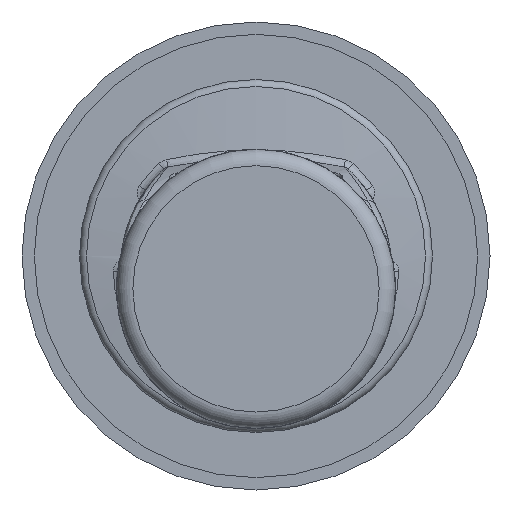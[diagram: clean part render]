
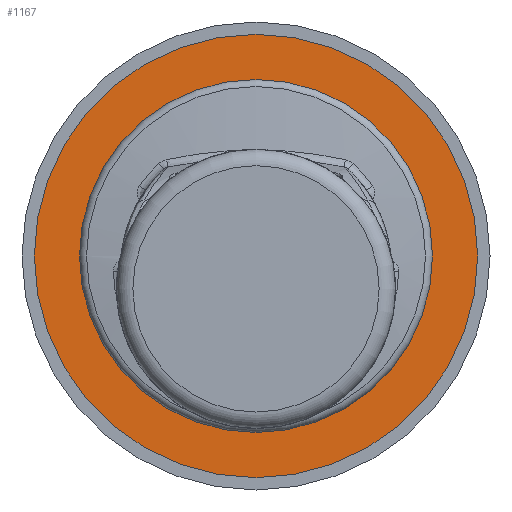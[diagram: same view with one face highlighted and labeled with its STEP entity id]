
A CAD part, left-side view. The second image highlights one B-rep face of the part: STEP entity #1167.
In plain terms, the highlighted planar face has unit normal (-1, 0, 0).
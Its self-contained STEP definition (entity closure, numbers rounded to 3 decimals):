
#346=PLANE('',#8537);
#1167=ADVANCED_FACE('',(#1647,#1648),#346,.T.);
#1647=FACE_BOUND('',#1967,.T.);
#1648=FACE_BOUND('',#1968,.T.);
#1967=EDGE_LOOP('',(#4682));
#1968=EDGE_LOOP('',(#4683));
#4682=ORIENTED_EDGE('',*,*,#7303,.T.);
#4683=ORIENTED_EDGE('',*,*,#7302,.F.);
#6342=VERTEX_POINT('',#17750);
#6343=VERTEX_POINT('',#17780);
#7302=EDGE_CURVE('',#6342,#6342,#8087,.T.);
#7303=EDGE_CURVE('',#6343,#6343,#8088,.T.);
#8087=CIRCLE('',#8535,10.);
#8088=CIRCLE('',#8536,13.5);
#8535=AXIS2_PLACEMENT_3D('',#17749,#9625,#9626);
#8536=AXIS2_PLACEMENT_3D('',#17779,#9627,#9628);
#8537=AXIS2_PLACEMENT_3D('',#17781,#9629,#9630);
#9625=DIRECTION('',(-1.,0.,0.));
#9626=DIRECTION('',(0.,0.,1.));
#9627=DIRECTION('',(-1.,0.,0.));
#9628=DIRECTION('',(0.,0.,1.));
#9629=DIRECTION('',(-1.,0.,0.));
#9630=DIRECTION('',(0.,0.,1.));
#17749=CARTESIAN_POINT('',(9.5,0.,0.));
#17750=CARTESIAN_POINT('',(9.5,0.,10.));
#17779=CARTESIAN_POINT('',(9.5,0.,0.));
#17780=CARTESIAN_POINT('',(9.5,0.,13.5));
#17781=CARTESIAN_POINT('',(9.5,0.,-10.));
